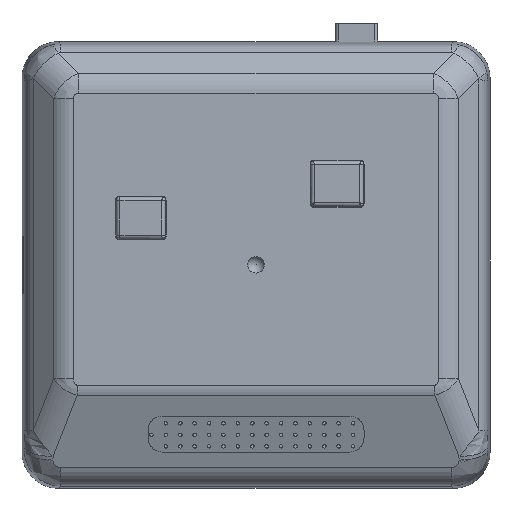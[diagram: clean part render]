
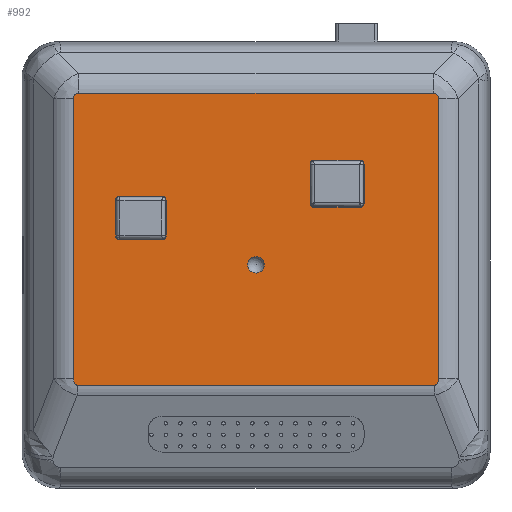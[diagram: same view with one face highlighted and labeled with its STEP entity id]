
A CAD part, top view. The second image highlights one B-rep face of the part: STEP entity #992.
In plain terms, the highlighted planar face has unit normal (0, 0, 1).
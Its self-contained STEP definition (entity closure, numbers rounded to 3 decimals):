
#295=CIRCLE('',#5523,0.5);
#296=CIRCLE('',#5524,0.5);
#297=CIRCLE('',#5525,0.5);
#298=CIRCLE('',#5526,0.5);
#299=CIRCLE('',#5527,0.5);
#300=CIRCLE('',#5528,0.5);
#301=CIRCLE('',#5529,0.5);
#302=CIRCLE('',#5530,0.5);
#303=CIRCLE('',#5531,1.146);
#436=PLANE('',#5536);
#712=FACE_BOUND('',#1785,.T.);
#713=FACE_BOUND('',#1786,.T.);
#714=FACE_BOUND('',#1787,.T.);
#715=FACE_BOUND('',#1788,.T.);
#992=ADVANCED_FACE('',(#712,#713,#714,#715),#436,.F.);
#1785=EDGE_LOOP('',(#2581,#2582,#2583,#2584,#2585,#2586,#2587,#2588));
#1786=EDGE_LOOP('',(#2589,#2590,#2591,#2592,#2593,#2594,#2595,#2596));
#1787=EDGE_LOOP('',(#2597));
#1788=EDGE_LOOP('',(#2598,#2599,#2600,#2601,#2602,#2603,#2604,#2605));
#2077=ELLIPSE('',#5532,1.773,1.);
#2078=ELLIPSE('',#5533,1.773,1.);
#2079=ELLIPSE('',#5534,3.004,1.);
#2080=ELLIPSE('',#5535,3.004,1.);
#2581=ORIENTED_EDGE('',*,*,#4287,.F.);
#2582=ORIENTED_EDGE('',*,*,#4288,.F.);
#2583=ORIENTED_EDGE('',*,*,#4289,.F.);
#2584=ORIENTED_EDGE('',*,*,#4290,.F.);
#2585=ORIENTED_EDGE('',*,*,#4291,.F.);
#2586=ORIENTED_EDGE('',*,*,#4292,.F.);
#2587=ORIENTED_EDGE('',*,*,#4293,.F.);
#2588=ORIENTED_EDGE('',*,*,#4294,.F.);
#2589=ORIENTED_EDGE('',*,*,#4295,.F.);
#2590=ORIENTED_EDGE('',*,*,#4296,.F.);
#2591=ORIENTED_EDGE('',*,*,#4297,.F.);
#2592=ORIENTED_EDGE('',*,*,#4298,.F.);
#2593=ORIENTED_EDGE('',*,*,#4299,.F.);
#2594=ORIENTED_EDGE('',*,*,#4300,.F.);
#2595=ORIENTED_EDGE('',*,*,#4301,.F.);
#2596=ORIENTED_EDGE('',*,*,#4302,.F.);
#2597=ORIENTED_EDGE('',*,*,#4303,.F.);
#2598=ORIENTED_EDGE('',*,*,#4304,.T.);
#2599=ORIENTED_EDGE('',*,*,#4305,.T.);
#2600=ORIENTED_EDGE('',*,*,#4306,.T.);
#2601=ORIENTED_EDGE('',*,*,#4307,.T.);
#2602=ORIENTED_EDGE('',*,*,#4308,.T.);
#2603=ORIENTED_EDGE('',*,*,#4309,.T.);
#2604=ORIENTED_EDGE('',*,*,#4310,.T.);
#2605=ORIENTED_EDGE('',*,*,#4311,.T.);
#3764=VERTEX_POINT('',#14713);
#3765=VERTEX_POINT('',#14714);
#3766=VERTEX_POINT('',#14716);
#3767=VERTEX_POINT('',#14718);
#3768=VERTEX_POINT('',#14720);
#3769=VERTEX_POINT('',#14722);
#3770=VERTEX_POINT('',#14724);
#3771=VERTEX_POINT('',#14726);
#3772=VERTEX_POINT('',#14729);
#3773=VERTEX_POINT('',#14730);
#3774=VERTEX_POINT('',#14732);
#3775=VERTEX_POINT('',#14734);
#3776=VERTEX_POINT('',#14736);
#3777=VERTEX_POINT('',#14738);
#3778=VERTEX_POINT('',#14740);
#3779=VERTEX_POINT('',#14742);
#3780=VERTEX_POINT('',#14745);
#3781=VERTEX_POINT('',#14747);
#3782=VERTEX_POINT('',#14748);
#3783=VERTEX_POINT('',#14750);
#3784=VERTEX_POINT('',#14752);
#3785=VERTEX_POINT('',#14754);
#3786=VERTEX_POINT('',#14756);
#3787=VERTEX_POINT('',#14758);
#3788=VERTEX_POINT('',#14760);
#4287=EDGE_CURVE('',#3764,#3765,#4797,.T.);
#4288=EDGE_CURVE('',#3766,#3764,#295,.T.);
#4289=EDGE_CURVE('',#3767,#3766,#4798,.T.);
#4290=EDGE_CURVE('',#3768,#3767,#296,.T.);
#4291=EDGE_CURVE('',#3769,#3768,#4799,.T.);
#4292=EDGE_CURVE('',#3770,#3769,#297,.T.);
#4293=EDGE_CURVE('',#3771,#3770,#4800,.T.);
#4294=EDGE_CURVE('',#3765,#3771,#298,.T.);
#4295=EDGE_CURVE('',#3772,#3773,#4801,.T.);
#4296=EDGE_CURVE('',#3774,#3772,#299,.T.);
#4297=EDGE_CURVE('',#3775,#3774,#4802,.T.);
#4298=EDGE_CURVE('',#3776,#3775,#300,.T.);
#4299=EDGE_CURVE('',#3777,#3776,#4803,.T.);
#4300=EDGE_CURVE('',#3778,#3777,#301,.T.);
#4301=EDGE_CURVE('',#3779,#3778,#4804,.T.);
#4302=EDGE_CURVE('',#3773,#3779,#302,.T.);
#4303=EDGE_CURVE('',#3780,#3780,#303,.T.);
#4304=EDGE_CURVE('',#3781,#3782,#4805,.T.);
#4305=EDGE_CURVE('',#3782,#3783,#2077,.T.);
#4306=EDGE_CURVE('',#3783,#3784,#4806,.T.);
#4307=EDGE_CURVE('',#3784,#3785,#2078,.T.);
#4308=EDGE_CURVE('',#3785,#3786,#4807,.T.);
#4309=EDGE_CURVE('',#3786,#3787,#2079,.T.);
#4310=EDGE_CURVE('',#3787,#3788,#4808,.T.);
#4311=EDGE_CURVE('',#3788,#3781,#2080,.T.);
#4797=LINE('',#14712,#5160);
#4798=LINE('',#14717,#5161);
#4799=LINE('',#14721,#5162);
#4800=LINE('',#14725,#5163);
#4801=LINE('',#14728,#5164);
#4802=LINE('',#14733,#5165);
#4803=LINE('',#14737,#5166);
#4804=LINE('',#14741,#5167);
#4805=LINE('',#14746,#5168);
#4806=LINE('',#14751,#5169);
#4807=LINE('',#14755,#5170);
#4808=LINE('',#14759,#5171);
#5160=VECTOR('',#6344,1.);
#5161=VECTOR('',#6347,1.);
#5162=VECTOR('',#6350,1.);
#5163=VECTOR('',#6353,1.);
#5164=VECTOR('',#6356,1.);
#5165=VECTOR('',#6359,1.);
#5166=VECTOR('',#6362,1.);
#5167=VECTOR('',#6365,1.);
#5168=VECTOR('',#6370,1.);
#5169=VECTOR('',#6373,1.);
#5170=VECTOR('',#6376,1.);
#5171=VECTOR('',#6379,1.);
#5523=AXIS2_PLACEMENT_3D('',#14715,#6345,#6346);
#5524=AXIS2_PLACEMENT_3D('',#14719,#6348,#6349);
#5525=AXIS2_PLACEMENT_3D('',#14723,#6351,#6352);
#5526=AXIS2_PLACEMENT_3D('',#14727,#6354,#6355);
#5527=AXIS2_PLACEMENT_3D('',#14731,#6357,#6358);
#5528=AXIS2_PLACEMENT_3D('',#14735,#6360,#6361);
#5529=AXIS2_PLACEMENT_3D('',#14739,#6363,#6364);
#5530=AXIS2_PLACEMENT_3D('',#14743,#6366,#6367);
#5531=AXIS2_PLACEMENT_3D('',#14744,#6368,#6369);
#5532=AXIS2_PLACEMENT_3D('',#14749,#6371,#6372);
#5533=AXIS2_PLACEMENT_3D('',#14753,#6374,#6375);
#5534=AXIS2_PLACEMENT_3D('',#14757,#6377,#6378);
#5535=AXIS2_PLACEMENT_3D('',#14761,#6380,#6381);
#5536=AXIS2_PLACEMENT_3D('',#14762,#6382,#6383);
#6344=DIRECTION('',(0.,-1.,0.));
#6345=DIRECTION('',(0.,0.,1.));
#6346=DIRECTION('',(-1.,0.,0.));
#6347=DIRECTION('',(-1.,0.,0.));
#6348=DIRECTION('',(0.,0.,1.));
#6349=DIRECTION('',(-1.,0.,0.));
#6350=DIRECTION('',(0.,1.,0.));
#6351=DIRECTION('',(0.,0.,1.));
#6352=DIRECTION('',(-1.,0.,0.));
#6353=DIRECTION('',(1.,0.,0.));
#6354=DIRECTION('',(0.,0.,1.));
#6355=DIRECTION('',(-1.,0.,0.));
#6356=DIRECTION('',(0.,-1.,0.));
#6357=DIRECTION('',(0.,0.,1.));
#6358=DIRECTION('',(-1.,0.,0.));
#6359=DIRECTION('',(-1.,0.,0.));
#6360=DIRECTION('',(0.,0.,1.));
#6361=DIRECTION('',(-1.,0.,0.));
#6362=DIRECTION('',(0.,1.,0.));
#6363=DIRECTION('',(0.,0.,1.));
#6364=DIRECTION('',(-1.,0.,0.));
#6365=DIRECTION('',(1.,0.,0.));
#6366=DIRECTION('',(0.,0.,1.));
#6367=DIRECTION('',(-1.,0.,0.));
#6368=DIRECTION('',(0.,0.,1.));
#6369=DIRECTION('',(-1.,0.,0.));
#6370=DIRECTION('',(0.,1.,0.));
#6371=DIRECTION('',(0.,0.,1.));
#6372=DIRECTION('',(0.707,0.707,0.));
#6373=DIRECTION('',(-1.,0.,0.));
#6374=DIRECTION('',(0.,0.,1.));
#6375=DIRECTION('',(-0.707,0.707,0.));
#6376=DIRECTION('',(0.,-1.,0.));
#6377=DIRECTION('',(0.,0.,1.));
#6378=DIRECTION('',(0.366,0.931,0.));
#6379=DIRECTION('',(1.,0.,0.));
#6380=DIRECTION('',(0.,0.,1.));
#6381=DIRECTION('',(0.366,-0.931,0.));
#6382=DIRECTION('',(0.,0.,-1.));
#6383=DIRECTION('',(-1.,0.,0.));
#14712=CARTESIAN_POINT('',(-19.5,0.,16.));
#14713=CARTESIAN_POINT('',(-19.5,9.,16.));
#14714=CARTESIAN_POINT('',(-19.5,4.,16.));
#14715=CARTESIAN_POINT('',(-19.,9.,16.));
#14716=CARTESIAN_POINT('',(-19.,9.5,16.));
#14717=CARTESIAN_POINT('',(0.,9.5,16.));
#14718=CARTESIAN_POINT('',(-13.,9.5,16.));
#14719=CARTESIAN_POINT('',(-13.,9.,16.));
#14720=CARTESIAN_POINT('',(-12.5,9.,16.));
#14721=CARTESIAN_POINT('',(-12.5,0.,16.));
#14722=CARTESIAN_POINT('',(-12.5,4.,16.));
#14723=CARTESIAN_POINT('',(-13.,4.,16.));
#14724=CARTESIAN_POINT('',(-13.,3.5,16.));
#14725=CARTESIAN_POINT('',(0.,3.5,16.));
#14726=CARTESIAN_POINT('',(-19.,3.5,16.));
#14727=CARTESIAN_POINT('',(-19.,4.,16.));
#14728=CARTESIAN_POINT('',(7.5,0.,16.));
#14729=CARTESIAN_POINT('',(7.5,14.,16.));
#14730=CARTESIAN_POINT('',(7.5,8.5,16.));
#14731=CARTESIAN_POINT('',(8.,14.,16.));
#14732=CARTESIAN_POINT('',(8.,14.5,16.));
#14733=CARTESIAN_POINT('',(0.,14.5,16.));
#14734=CARTESIAN_POINT('',(14.5,14.5,16.));
#14735=CARTESIAN_POINT('',(14.5,14.,16.));
#14736=CARTESIAN_POINT('',(15.,14.,16.));
#14737=CARTESIAN_POINT('',(15.,0.,16.));
#14738=CARTESIAN_POINT('',(15.,8.5,16.));
#14739=CARTESIAN_POINT('',(14.5,8.5,16.));
#14740=CARTESIAN_POINT('',(14.5,8.,16.));
#14741=CARTESIAN_POINT('',(0.,8.,16.));
#14742=CARTESIAN_POINT('',(8.,8.,16.));
#14743=CARTESIAN_POINT('',(8.,8.5,16.));
#14744=CARTESIAN_POINT('',(0.,0.,16.));
#14745=CARTESIAN_POINT('',(-1.146,0.,16.));
#14746=CARTESIAN_POINT('',(25.325,21.968,16.));
#14747=CARTESIAN_POINT('',(25.325,-15.785,16.));
#14748=CARTESIAN_POINT('',(25.325,23.131,16.));
#14749=CARTESIAN_POINT('',(23.886,22.386,16.));
#14750=CARTESIAN_POINT('',(24.631,23.825,16.));
#14751=CARTESIAN_POINT('',(-23.468,23.825,16.));
#14752=CARTESIAN_POINT('',(-24.631,23.825,16.));
#14753=CARTESIAN_POINT('',(-23.886,22.386,16.));
#14754=CARTESIAN_POINT('',(-25.325,23.131,16.));
#14755=CARTESIAN_POINT('',(-25.325,-12.825,16.));
#14756=CARTESIAN_POINT('',(-25.325,-15.785,16.));
#14757=CARTESIAN_POINT('',(-23.886,-13.888,16.));
#14758=CARTESIAN_POINT('',(-24.854,-16.708,16.));
#14759=CARTESIAN_POINT('',(24.585,-16.708,16.));
#14760=CARTESIAN_POINT('',(24.854,-16.708,16.));
#14761=CARTESIAN_POINT('',(23.886,-13.888,16.));
#14762=CARTESIAN_POINT('',(0.,0.,16.));
